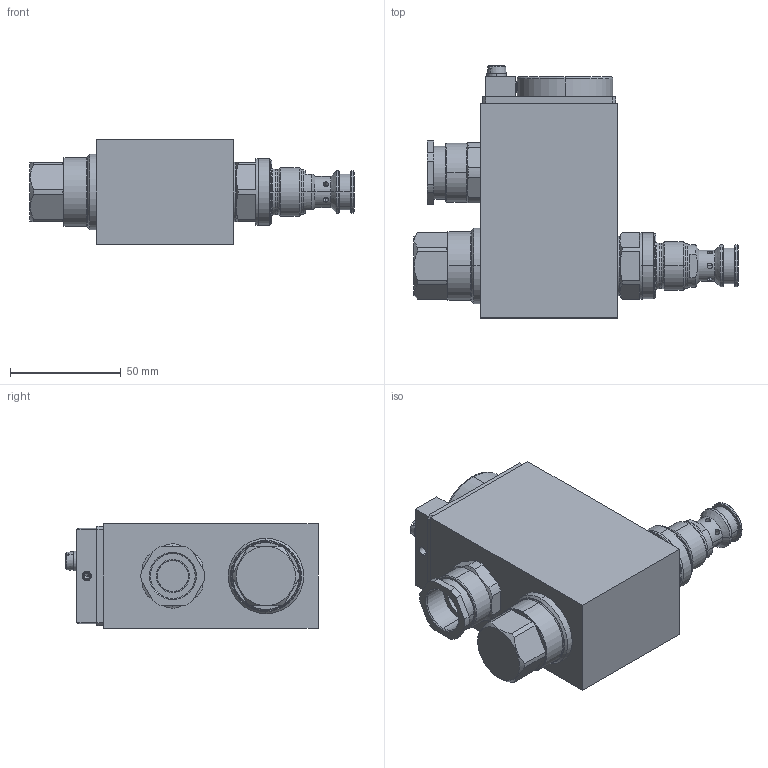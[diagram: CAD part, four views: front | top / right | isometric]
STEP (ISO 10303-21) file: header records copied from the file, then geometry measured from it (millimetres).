
FILE_DESCRIPTION (( 'STEP AP214' ), '1' );
FILE_NAME ('SDYPM22-BA-K10.STEP', '2021-02-24T11:10:04', ( '' ), ( '' ), 'SwSTEP 2.0', 'SolidWorks 2020', '' );
FILE_SCHEMA (( 'AUTOMOTIVE_DESIGN' ));
Length unit declared in the file: millimetre
Products named in the file (1): SDYPM22-BA-K10
Bounding box: 146.3 x 113.7 x 47 mm (x, y, z)
Volume: 355650.4 mm3; surface area: 43090 mm2
Topology: 1 solids, 3 shells, 406 faces, 970 edges, 605 vertices
Faces by surface type: plane 167, cylinder 124, cone 67, torus 40, bspline 8
Entity records: 17181 total; most frequent: CARTESIAN_POINT 3209, DIRECTION 2054, ORIENTED_EDGE 1924, EDGE_CURVE 962, AXIS2_PLACEMENT_3D 807, VERTEX_POINT 605, EDGE_LOOP 453, LINE 440
